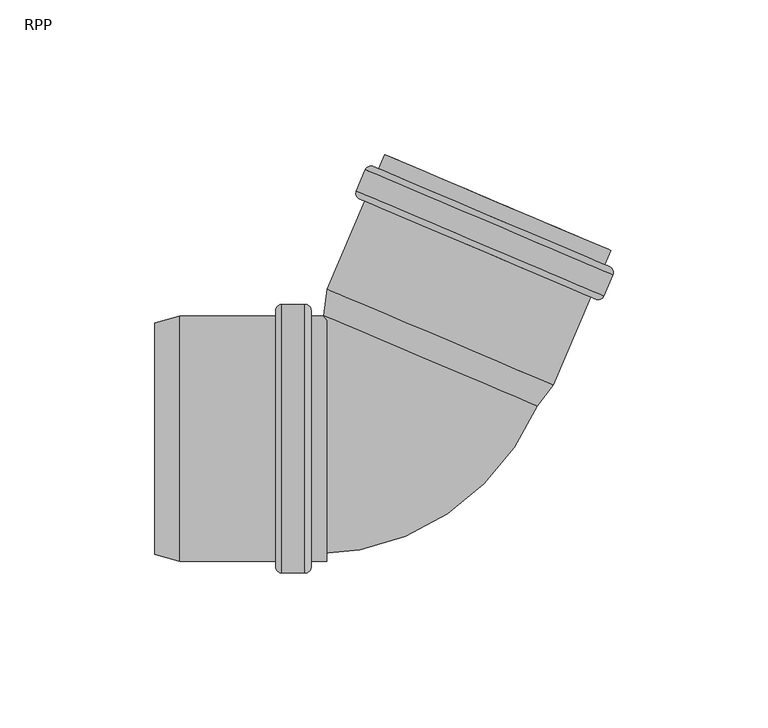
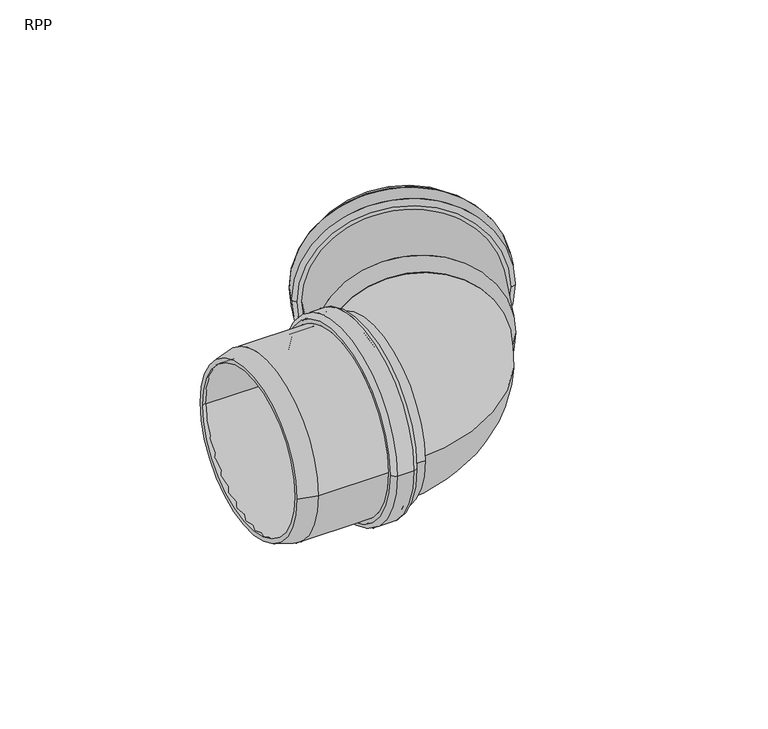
"""IFC4 building model written with IfcOpenShell, lengths in millimetres: pipe fitting geometry, RAUPIANO PLUS Bend : RPP."""

from ifc_helpers import new_model, si_unit, point, frame, origin, place, context, project, spatial, polyline, circle_curve, ellipse_curve, trimmed, source, transform, mapped, element, save
from ifc_brep_helpers import plane_surface, cylinder_surface, revolved_surface, advanced_brep


def rpp_015da664(model_context):
    return source(origin(), model_context, "Body", "AdvancedBrep", [
        advanced_brep(
        [(-37.3682508, -37.8, 0.0), (-37.3682508, 37.8, 0.0), (-70.0075993, 37.8, 0.0), (-70.0075993, -37.8, 0.0), (-36.8682508, -41.6, 0.0), (-36.8682508, 41.6, 0.0), (-37.3682508, 41.1, 0.0), (-37.3682508, -41.1, 0.0), (-30.2682508, -41.6, 0.0), (-30.2682508, 41.6, 0.0), (-29.7682508, -41.1, 0.0), (-29.7682508, 41.1, 0.0), (-22.8682508, -37.8, 0.0), (-22.8682508, 37.8, 0.0), (-29.7682508, 37.8, 0.0), (-29.7682508, -37.8, 0.0), (-27.8682508, -39.7, 0.0), (-27.8682508, 39.7, 0.0), (-22.8682508, 39.7, 0.0), (-22.8682508, -39.7, 0.0), (-29.8682508, -43.5, 0.0), (-29.8682508, 43.5, 0.0), (-27.8682508, 41.5, 0.0), (-27.8682508, -41.5, 0.0), (-37.2682508, -43.5, 0.0), (-37.2682508, 43.5, 0.0), (-39.2682508, -41.5, 0.0), (-39.2682508, 41.5, 0.0), (-70.257739, -39.7, 0.0), (-70.257739, 39.7, 0.0), (-39.2682508, 39.7, 0.0), (-39.2682508, -39.7, 0.0), (-78.4682508, -37.5, 0.0), (-78.4682508, 37.5, 0.0), (-78.4682508, 35.5329753, 0.0), (-78.4682508, -35.5329753, 0.0)],
        [
            (0, 1, circle_curve(frame((-37.3682508, 0.0, 0.0), z_axis=(1.0, 0.0, 0.0), x_axis=(0.0, 1.0, 0.0)), 37.8)),
            (1, 2),
            (2, 3, circle_curve(frame((-70.0075993, 0.0, 0.0), z_axis=(-1.0, 0.0, 0.0), x_axis=(0.0, 1.0, 0.0)), 37.8)),
            (3, 0),
            (4, 5, circle_curve(frame((-36.8682508, 0.0, 0.0), z_axis=(1.0, 0.0, 0.0), x_axis=(0.0, 1.0, 0.0)), 41.6)),
            (5, 6, circle_curve(frame((-36.8682508, 41.1, 0.0), z_axis=(0.0, 0.0, 1.0), x_axis=(0.0, -1.0, 0.0)), 0.5)),
            (6, 7, circle_curve(frame((-37.3682508, 0.0, 0.0), z_axis=(-1.0, 0.0, 0.0), x_axis=(0.0, 1.0, 0.0)), 41.1)),
            (7, 4, circle_curve(frame((-36.8682508, -41.1, 0.0), z_axis=(0.0, 0.0, 1.0), x_axis=(0.0, 1.0, 0.0)), 0.5)),
            (8, 9, circle_curve(frame((-30.2682508, 0.0, 0.0), z_axis=(1.0, 0.0, 0.0), x_axis=(0.0, 1.0, 0.0)), 41.6)),
            (9, 5),
            (4, 8),
            (10, 11, circle_curve(frame((-29.7682508, 0.0, 0.0), z_axis=(1.0, 0.0, 0.0), x_axis=(0.0, 1.0, 0.0)), 41.1)),
            (11, 9, circle_curve(frame((-30.2682508, 41.1, 0.0), z_axis=(0.0, 0.0, 1.0), x_axis=(0.0, -1.0, 0.0)), 0.5)),
            (8, 10, circle_curve(frame((-30.2682508, -41.1, 0.0), z_axis=(0.0, 0.0, 1.0), x_axis=(0.0, 1.0, 0.0)), 0.5)),
            (12, 13, circle_curve(frame((-22.8682508, 0.0, 0.0), z_axis=(1.0, 0.0, 0.0), x_axis=(0.0, 1.0, 0.0)), 37.8)),
            (13, 14),
            (14, 15, circle_curve(frame((-29.7682508, 0.0, 0.0), z_axis=(-1.0, 0.0, 0.0), x_axis=(0.0, 1.0, 0.0)), 37.8)),
            (15, 12),
            (16, 17, circle_curve(frame((-27.8682508, 0.0, 0.0), z_axis=(1.0, 0.0, 0.0), x_axis=(0.0, 1.0, 0.0)), 39.7)),
            (17, 18),
            (18, 19, circle_curve(frame((-22.8682508, 0.0, 0.0), z_axis=(-1.0, 0.0, 0.0), x_axis=(0.0, 1.0, 0.0)), 39.7)),
            (19, 16),
            (20, 21, circle_curve(frame((-29.8682508, 0.0, 0.0), z_axis=(1.0, 0.0, 0.0), x_axis=(0.0, 1.0, 0.0)), 43.5)),
            (21, 22, circle_curve(frame((-29.8682508, 41.5, 0.0), z_axis=(0.0, 0.0, -1.0), x_axis=(0.0, -1.0, 0.0)), 2.0)),
            (22, 23, circle_curve(frame((-27.8682508, 0.0, 0.0), z_axis=(-1.0, 0.0, 0.0), x_axis=(0.0, 1.0, 0.0)), 41.5)),
            (23, 20, circle_curve(frame((-29.8682508, -41.5, 0.0), z_axis=(0.0, 0.0, -1.0), x_axis=(0.0, 1.0, 0.0)), 2.0)),
            (24, 25, circle_curve(frame((-37.2682508, 0.0, 0.0), z_axis=(1.0, 0.0, 0.0), x_axis=(0.0, 1.0, 0.0)), 43.5)),
            (25, 21),
            (20, 24),
            (26, 27, circle_curve(frame((-39.2682508, 0.0, 0.0), z_axis=(1.0, 0.0, 0.0), x_axis=(0.0, 1.0, 0.0)), 41.5)),
            (27, 25, circle_curve(frame((-37.2682508, 41.5, 0.0), z_axis=(0.0, 0.0, -1.0), x_axis=(0.0, -1.0, 0.0)), 2.0)),
            (24, 26, circle_curve(frame((-37.2682508, -41.5, 0.0), z_axis=(0.0, 0.0, -1.0), x_axis=(0.0, 1.0, 0.0)), 2.0)),
            (28, 29, circle_curve(frame((-70.257739, 0.0, 0.0), z_axis=(1.0, 0.0, 0.0), x_axis=(0.0, 1.0, 0.0)), 39.7)),
            (29, 30),
            (30, 31, circle_curve(frame((-39.2682508, 0.0, 0.0), z_axis=(-1.0, 0.0, 0.0), x_axis=(0.0, 1.0, 0.0)), 39.7)),
            (31, 28),
            (32, 33, circle_curve(frame((-78.4682508, 0.0, 0.0), z_axis=(1.0, 0.0, 0.0), x_axis=(0.0, 1.0, 0.0)), 37.5)),
            (33, 29),
            (28, 32),
            (2, 34),
            (34, 35, circle_curve(frame((-78.4682508, 0.0, 0.0), z_axis=(-1.0, 0.0, 0.0), x_axis=(0.0, 1.0, 0.0)), 35.5329753)),
            (35, 3),
            (1, 0, circle_curve(frame((-37.3682508, 0.0, 0.0), z_axis=(1.0, 0.0, 0.0), x_axis=(0.0, -1.0, 0.0)), 37.8)),
            (3, 2, circle_curve(frame((-70.0075993, 0.0, 0.0), z_axis=(-1.0, 0.0, 0.0), x_axis=(0.0, -1.0, 0.0)), 37.8)),
            (6, 7, circle_curve(frame((-37.3682508, 0.0, 0.0), z_axis=(1.0, 0.0, 0.0), x_axis=(0.0, -1.0, 0.0)), 41.1)),
            (5, 4, circle_curve(frame((-36.8682508, 0.0, 0.0), z_axis=(1.0, 0.0, 0.0), x_axis=(0.0, -1.0, 0.0)), 41.6)),
            (9, 8, circle_curve(frame((-30.2682508, 0.0, 0.0), z_axis=(1.0, 0.0, 0.0), x_axis=(0.0, -1.0, 0.0)), 41.6)),
            (11, 10, circle_curve(frame((-29.7682508, 0.0, 0.0), z_axis=(1.0, 0.0, 0.0), x_axis=(0.0, -1.0, 0.0)), 41.1)),
            (14, 15, circle_curve(frame((-29.7682508, 0.0, 0.0), z_axis=(1.0, 0.0, 0.0), x_axis=(0.0, -1.0, 0.0)), 37.8)),
            (13, 12, circle_curve(frame((-22.8682508, 0.0, 0.0), z_axis=(1.0, 0.0, 0.0), x_axis=(0.0, -1.0, 0.0)), 37.8)),
            (18, 19, circle_curve(frame((-22.8682508, 0.0, 0.0), z_axis=(1.0, 0.0, 0.0), x_axis=(0.0, -1.0, 0.0)), 39.7)),
            (17, 16, circle_curve(frame((-27.8682508, 0.0, 0.0), z_axis=(1.0, 0.0, 0.0), x_axis=(0.0, -1.0, 0.0)), 39.7)),
            (22, 23, circle_curve(frame((-27.8682508, 0.0, 0.0), z_axis=(1.0, 0.0, 0.0), x_axis=(0.0, -1.0, 0.0)), 41.5)),
            (21, 20, circle_curve(frame((-29.8682508, 0.0, 0.0), z_axis=(1.0, 0.0, 0.0), x_axis=(0.0, -1.0, 0.0)), 43.5)),
            (25, 24, circle_curve(frame((-37.2682508, 0.0, 0.0), z_axis=(1.0, 0.0, 0.0), x_axis=(0.0, -1.0, 0.0)), 43.5)),
            (27, 26, circle_curve(frame((-39.2682508, 0.0, 0.0), z_axis=(1.0, 0.0, 0.0), x_axis=(0.0, -1.0, 0.0)), 41.5)),
            (30, 31, circle_curve(frame((-39.2682508, 0.0, 0.0), z_axis=(1.0, 0.0, 0.0), x_axis=(0.0, -1.0, 0.0)), 39.7)),
            (29, 28, circle_curve(frame((-70.257739, 0.0, 0.0), z_axis=(1.0, 0.0, 0.0), x_axis=(0.0, -1.0, 0.0)), 39.7)),
            (33, 32, circle_curve(frame((-78.4682508, 0.0, 0.0), z_axis=(1.0, 0.0, 0.0), x_axis=(0.0, -1.0, 0.0)), 37.5)),
            (34, 35, circle_curve(frame((-78.4682508, 0.0, 0.0), z_axis=(1.0, 0.0, 0.0), x_axis=(0.0, -1.0, 0.0)), 35.5329753)),
        ],
        [
            revolved_surface(polyline([(-70.0075993, 37.8, 0.0), (-37.3682508, 37.8, 0.0)]), (-78.4682508, 0.0, 0.0), (-1.0, 0.0, 0.0)),
            revolved_surface(trimmed(ellipse_curve(frame((-36.8682508, 41.1, 0.0), z_axis=(0.0, 0.0, -1.0), x_axis=(0.0, -1.0, 0.0)), 0.5, 0.5), [point((-37.3682508, 41.1, 0.0))], [point((-36.8682508, 41.6, 0.0))], True, "CARTESIAN"), (-78.4682508, 0.0, 0.0), (-1.0, 0.0, 0.0)),
            revolved_surface(polyline([(-36.8682508, 41.6, 0.0), (-30.268250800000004, 41.6, 0.0)]), (-78.4682508, 0.0, 0.0), (-1.0, 0.0, 0.0)),
            revolved_surface(trimmed(ellipse_curve(frame((-30.2682508, 41.1, 0.0), z_axis=(0.0, 0.0, -1.0), x_axis=(0.0, -1.0, 0.0)), 0.5, 0.5), [point((-30.2682508, 41.6, 0.0))], [point((-29.7682508, 41.1, 0.0))], True, "CARTESIAN"), (-78.4682508, 0.0, 0.0), (-1.0, 0.0, 0.0)),
            revolved_surface(polyline([(-29.768250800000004, 37.8, 0.0), (-22.8682508, 37.8, 0.0)]), (-78.4682508, 0.0, 0.0), (-1.0, 0.0, 0.0)),
            cylinder_surface(frame((-78.4682508, 0.0, 0.0), z_axis=(-1.0, 0.0, 0.0), x_axis=(0.0, 1.0, 0.0)), 39.7),
            revolved_surface(trimmed(ellipse_curve(frame((-29.8682508, 41.5, 0.0), z_axis=(0.0, 0.0, 1.0), x_axis=(0.0, -1.0, 0.0)), 2.0, 2.0), [point((-27.8682508, 41.5, 0.0))], [point((-29.8682508, 43.5, 0.0))], True, "CARTESIAN"), (-78.4682508, 0.0, 0.0), (-1.0, 0.0, 0.0)),
            cylinder_surface(frame((-78.4682508, 0.0, 0.0), z_axis=(-1.0, 0.0, 0.0), x_axis=(0.0, 1.0, 0.0)), 43.5),
            revolved_surface(trimmed(ellipse_curve(frame((-37.2682508, 41.5, 0.0), z_axis=(0.0, 0.0, 1.0), x_axis=(0.0, -1.0, 0.0)), 2.0, 2.0), [point((-37.2682508, 43.5, 0.0))], [point((-39.2682508, 41.5, 0.0))], True, "CARTESIAN"), (-78.4682508, 0.0, 0.0), (-1.0, 0.0, 0.0)),
            revolved_surface(polyline([(-70.257739, 39.7, 0.0), (-78.4682508, 37.5, 0.0)]), (-78.4682508, 0.0, 0.0), (-1.0, 0.0, 0.0)),
            revolved_surface(polyline([(-78.4682508, 35.5329753, 0.0), (-70.0075993, 37.8, 0.0)]), (-78.4682508, 0.0, 0.0), (-1.0, 0.0, 0.0)),
            revolved_surface(polyline([(-70.0075993, -37.8, 0.0), (-37.3682508, -37.8, 0.0)]), (-78.4682508, 0.0, 0.0), (-1.0, 0.0, 0.0)),
            plane_surface(frame((-37.3682508, 0.0, 0.0), z_axis=(1.0, 0.0, 0.0), x_axis=(0.0, -1.0, 0.0))),
            revolved_surface(trimmed(ellipse_curve(frame((-36.8682508, -41.1, 0.0), z_axis=(0.0, 0.0, 1.0), x_axis=(0.0, 1.0, 0.0)), 0.5, 0.5), [point((-37.3682508, -41.1, 0.0))], [point((-36.8682508, -41.6, 0.0))], True, "CARTESIAN"), (-78.4682508, 0.0, 0.0), (-1.0, 0.0, 0.0)),
            revolved_surface(polyline([(-36.8682508, -41.6, 0.0), (-30.268250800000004, -41.6, 0.0)]), (-78.4682508, 0.0, 0.0), (-1.0, 0.0, 0.0)),
            revolved_surface(trimmed(ellipse_curve(frame((-30.2682508, -41.1, 0.0), z_axis=(0.0, 0.0, 1.0), x_axis=(0.0, 1.0, 0.0)), 0.5, 0.5), [point((-30.2682508, -41.6, 0.0))], [point((-29.7682508, -41.1, 0.0))], True, "CARTESIAN"), (-78.4682508, 0.0, 0.0), (-1.0, 0.0, 0.0)),
            plane_surface(frame((-29.7682508, 0.0, 0.0), z_axis=(-1.0, 0.0, 0.0), x_axis=(0.0, -1.0, 0.0))),
            revolved_surface(polyline([(-29.768250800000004, -37.8, 0.0), (-22.8682508, -37.8, 0.0)]), (-78.4682508, 0.0, 0.0), (-1.0, 0.0, 0.0)),
            plane_surface(frame((-22.8682508, 0.0, 0.0), z_axis=(1.0, 0.0, 0.0), x_axis=(0.0, -1.0, 0.0))),
            cylinder_surface(frame((-78.4682508, 0.0, 0.0), z_axis=(-1.0, 0.0, 0.0), x_axis=(0.0, -1.0, 0.0)), 39.7),
            plane_surface(frame((-27.8682508, 0.0, 0.0), z_axis=(1.0, 0.0, 0.0), x_axis=(0.0, -1.0, 0.0))),
            revolved_surface(trimmed(ellipse_curve(frame((-29.8682508, -41.5, 0.0), z_axis=(0.0, 0.0, -1.0), x_axis=(0.0, 1.0, 0.0)), 2.0, 2.0), [point((-27.8682508, -41.5, 0.0))], [point((-29.8682508, -43.5, 0.0))], True, "CARTESIAN"), (-78.4682508, 0.0, 0.0), (-1.0, 0.0, 0.0)),
            cylinder_surface(frame((-78.4682508, 0.0, 0.0), z_axis=(-1.0, 0.0, 0.0), x_axis=(0.0, -1.0, 0.0)), 43.5),
            revolved_surface(trimmed(ellipse_curve(frame((-37.2682508, -41.5, 0.0), z_axis=(0.0, 0.0, -1.0), x_axis=(0.0, 1.0, 0.0)), 2.0, 2.0), [point((-37.2682508, -43.5, 0.0))], [point((-39.2682508, -41.5, 0.0))], True, "CARTESIAN"), (-78.4682508, 0.0, 0.0), (-1.0, 0.0, 0.0)),
            plane_surface(frame((-39.2682508, 0.0, 0.0), z_axis=(-1.0, 0.0, 0.0), x_axis=(0.0, -1.0, 0.0))),
            revolved_surface(polyline([(-70.257739, -39.7, 0.0), (-78.4682508, -37.5, 0.0)]), (-78.4682508, 0.0, 0.0), (-1.0, 0.0, 0.0)),
            plane_surface(frame((-78.4682508, 0.0, 0.0), z_axis=(-1.0, 0.0, 0.0), x_axis=(0.0, -1.0, 0.0))),
            revolved_surface(polyline([(-78.4682508, -35.5329753, 0.0), (-70.0075993, -37.8, 0.0)]), (-78.4682508, 0.0, 0.0), (-1.0, 0.0, 0.0)),
        ],
        [
            (0, [[1, 2, 3, 4]]),
            (1, [[5, 6, 7, 8]]),
            (2, [[9, 10, -5, 11]]),
            (3, [[12, 13, -9, 14]]),
            (4, [[15, 16, 17, 18]]),
            (5, [[19, 20, 21, 22]]),
            (6, [[23, 24, 25, 26]]),
            (7, [[27, 28, -23, 29]]),
            (8, [[30, 31, -27, 32]]),
            (5, [[33, 34, 35, 36]]),
            (9, [[37, 38, -33, 39]]),
            (10, [[-3, 40, 41, 42]]),
            (11, [[43, -4, 44, -2]]),
            (12, [[45, -7], [-43, -1]]),
            (13, [[46, -8, -45, -6]]),
            (14, [[47, -11, -46, -10]]),
            (15, [[48, -14, -47, -13]]),
            (16, [[-48, -12], [49, -17]]),
            (17, [[50, -18, -49, -16]]),
            (18, [[51, -21], [-50, -15]]),
            (19, [[52, -22, -51, -20]]),
            (20, [[53, -25], [-52, -19]]),
            (21, [[54, -26, -53, -24]]),
            (22, [[55, -29, -54, -28]]),
            (23, [[56, -32, -55, -31]]),
            (24, [[-56, -30], [57, -35]]),
            (19, [[58, -36, -57, -34]]),
            (25, [[59, -39, -58, -38]]),
            (26, [[-59, -37], [60, -41]]),
            (27, [[-44, -42, -60, -40]]),
        ],
    ),
        advanced_brep(
        [(43.4409768, 11.4008186, 0.0), (-21.9755756, 39.1684977, 0.0), (-20.7565429, 47.8423656, 0.0), (48.833624, 18.3030923, 0.0), (50.4848458, 17.3304483, 0.0), (-22.6032395, 48.3544999, 0.0), (-23.7862314, 39.9370755, 0.0), (45.2516326, 10.6322408, 0.0), (62.5934035, 45.8564226, 0.0), (-10.4946818, 76.8804742, 0.0), (69.7641946, 53.02439, 0.0), (-10.3197277, 87.0179981, 0.0), (-13.211138, 80.2062622, 0.0), (66.8727842, 46.212654, 0.0), (69.0013941, 60.9527022, 0.0), (-4.0866913, 91.9767538, 0.0), (-6.040347, 87.3742296, 0.0), (67.0477384, 56.350178, 0.0), (64.55639, 55.3436079, 0.0), (-5.0337769, 84.8828812, 0.0), (-2.3377321, 91.2343647, 0.0), (67.2524348, 61.6950914, 0.0), (65.2801175, 47.3232451, 0.0), (-11.3058863, 79.832075, 0.0), (-8.7270609, 85.907407, 0.0), (67.8589429, 53.3985772, 0.0), (-8.0033335, 77.8870443, 0.0), (61.5868335, 48.347771, 0.0), (-12.1515906, 77.5837903, 0.0), (64.2503123, 45.1531066, 0.0), (68.7046471, 55.6468619, 0.0), (-7.6972557, 88.0775456, 0.0), (-8.0714429, 86.1722939, 0.0), (67.5940561, 54.0541951, 0.0), (64.6244995, 47.0583583, 0.0), (-11.0409995, 79.176457, 0.0)],
        [
            (0, 1, circle_curve(frame((10.7327006, 25.2846582, 0.0), z_axis=(-0.39073112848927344, -0.9205048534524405, 0.0), x_axis=(-0.9205048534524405, 0.39073112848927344, 0.0)), 35.5329753)),
            (1, 2),
            (2, 3, circle_curve(frame((14.0385405, 33.072729, 0.0), z_axis=(0.39073112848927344, 0.9205048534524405, 0.0), x_axis=(-0.9205048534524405, 0.39073112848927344, 0.0)), 37.8)),
            (3, 0),
            (4, 5, circle_curve(frame((13.9408032, 32.8424741, 0.0), z_axis=(-0.39073112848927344, -0.9205048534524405, 0.0), x_axis=(-0.9205048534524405, 0.39073112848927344, 0.0)), 39.7)),
            (5, 6),
            (6, 7, circle_curve(frame((10.7327006, 25.2846582, 0.0), z_axis=(0.39073112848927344, 0.9205048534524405, 0.0), x_axis=(-0.9205048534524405, 0.39073112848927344, 0.0)), 37.5)),
            (7, 4),
            (8, 9, circle_curve(frame((26.0493609, 61.3684484, 0.0), z_axis=(-0.39073112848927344, -0.9205048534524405, 0.0), x_axis=(-0.9205048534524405, 0.39073112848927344, 0.0)), 39.7)),
            (9, 5),
            (4, 8),
            (10, 11, circle_curve(frame((29.7222335, 70.021194, 0.0), z_axis=(-0.39073112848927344, -0.9205048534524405, 0.0), x_axis=(-0.9205048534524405, 0.39073112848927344, 0.0)), 43.5)),
            (11, 12),
            (12, 13, circle_curve(frame((26.8308231, 63.2094581, 0.0), z_axis=(0.39073112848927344, 0.9205048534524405, 0.0), x_axis=(-0.9205048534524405, 0.39073112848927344, 0.0)), 43.5)),
            (13, 10),
            (14, 15, circle_curve(frame((32.4573514, 76.464728, 0.0), z_axis=(-0.39073112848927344, -0.9205048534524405, 0.0), x_axis=(-0.9205048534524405, 0.39073112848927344, 0.0)), 39.7)),
            (15, 16),
            (16, 17, circle_curve(frame((30.5036957, 71.8622038, 0.0), z_axis=(0.39073112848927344, 0.9205048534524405, 0.0), x_axis=(-0.9205048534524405, 0.39073112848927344, 0.0)), 39.7)),
            (17, 14),
            (18, 19, circle_curve(frame((29.7613066, 70.1132445, 0.0), z_axis=(-0.39073112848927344, -0.9205048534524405, 0.0), x_axis=(-0.9205048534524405, 0.39073112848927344, 0.0)), 37.8)),
            (19, 20),
            (20, 21, circle_curve(frame((32.4573514, 76.464728, 0.0), z_axis=(0.39073112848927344, 0.9205048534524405, 0.0), x_axis=(-0.9205048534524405, 0.39073112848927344, 0.0)), 37.8)),
            (21, 18),
            (22, 23, circle_curve(frame((26.9871156, 63.5776601, 0.0), z_axis=(-0.39073112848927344, -0.9205048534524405, 0.0), x_axis=(-0.9205048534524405, 0.39073112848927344, 0.0)), 41.6)),
            (23, 24),
            (24, 25, circle_curve(frame((29.565941, 69.6529921, 0.0), z_axis=(0.39073112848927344, 0.9205048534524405, 0.0), x_axis=(-0.9205048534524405, 0.39073112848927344, 0.0)), 41.6)),
            (25, 22),
            (2, 26),
            (26, 27, circle_curve(frame((26.79175, 63.1174076, 0.0), z_axis=(0.39073112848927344, 0.9205048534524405, 0.0), x_axis=(-0.9205048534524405, 0.39073112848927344, 0.0)), 37.8)),
            (27, 3),
            (1, 0, circle_curve(frame((10.7327006, 25.2846582, 0.0), z_axis=(-0.39073112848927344, -0.9205048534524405, 0.0), x_axis=(0.9205048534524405, -0.39073112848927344, 0.0)), 35.5329753)),
            (3, 2, circle_curve(frame((14.0385405, 33.072729, 0.0), z_axis=(0.39073112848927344, 0.9205048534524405, 0.0), x_axis=(0.9205048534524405, -0.39073112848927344, 0.0)), 37.8)),
            (6, 7, circle_curve(frame((10.7327006, 25.2846582, 0.0), z_axis=(-0.39073112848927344, -0.9205048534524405, 0.0), x_axis=(0.9205048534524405, -0.39073112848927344, 0.0)), 37.5)),
            (5, 4, circle_curve(frame((13.9408032, 32.8424741, 0.0), z_axis=(-0.39073112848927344, -0.9205048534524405, 0.0), x_axis=(0.9205048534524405, -0.39073112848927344, 0.0)), 39.7)),
            (9, 8, circle_curve(frame((26.0493609, 61.3684484, 0.0), z_axis=(-0.39073112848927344, -0.9205048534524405, 0.0), x_axis=(0.9205048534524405, -0.39073112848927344, 0.0)), 39.7)),
            (28, 29, circle_curve(frame((26.0493609, 61.3684484, 0.0), z_axis=(-0.39073112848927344, -0.9205048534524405, 0.0), x_axis=(0.9205048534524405, -0.39073112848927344, 0.0)), 41.5)),
            (29, 28, circle_curve(frame((26.0493609, 61.3684484, 0.0), z_axis=(-0.39073112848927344, -0.9205048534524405, 0.0), x_axis=(-0.9205048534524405, 0.39073112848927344, 0.0)), 41.5)),
            (11, 10, circle_curve(frame((29.7222335, 70.021194, 0.0), z_axis=(-0.39073112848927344, -0.9205048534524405, 0.0), x_axis=(0.9205048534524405, -0.39073112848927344, 0.0)), 43.5)),
            (13, 12, circle_curve(frame((26.8308231, 63.2094581, 0.0), z_axis=(0.39073112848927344, 0.9205048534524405, 0.0), x_axis=(0.9205048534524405, -0.39073112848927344, 0.0)), 43.5)),
            (30, 31, circle_curve(frame((30.5036957, 71.8622038, 0.0), z_axis=(0.39073112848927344, 0.9205048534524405, 0.0), x_axis=(0.9205048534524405, -0.39073112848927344, 0.0)), 41.5)),
            (31, 30, circle_curve(frame((30.5036957, 71.8622038, 0.0), z_axis=(0.39073112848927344, 0.9205048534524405, 0.0), x_axis=(-0.9205048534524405, 0.39073112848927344, 0.0)), 41.5)),
            (16, 17, circle_curve(frame((30.5036957, 71.8622038, 0.0), z_axis=(-0.39073112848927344, -0.9205048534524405, 0.0), x_axis=(0.9205048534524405, -0.39073112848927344, 0.0)), 39.7)),
            (15, 14, circle_curve(frame((32.4573514, 76.464728, 0.0), z_axis=(-0.39073112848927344, -0.9205048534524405, 0.0), x_axis=(0.9205048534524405, -0.39073112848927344, 0.0)), 39.7)),
            (20, 21, circle_curve(frame((32.4573514, 76.464728, 0.0), z_axis=(-0.39073112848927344, -0.9205048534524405, 0.0), x_axis=(0.9205048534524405, -0.39073112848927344, 0.0)), 37.8)),
            (19, 18, circle_curve(frame((29.7613066, 70.1132445, 0.0), z_axis=(-0.39073112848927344, -0.9205048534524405, 0.0), x_axis=(0.9205048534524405, -0.39073112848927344, 0.0)), 37.8)),
            (32, 33, circle_curve(frame((29.7613066, 70.1132445, 0.0), z_axis=(-0.39073112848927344, -0.9205048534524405, 0.0), x_axis=(0.9205048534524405, -0.39073112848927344, 0.0)), 41.1)),
            (33, 32, circle_curve(frame((29.7613066, 70.1132445, 0.0), z_axis=(-0.39073112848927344, -0.9205048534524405, 0.0), x_axis=(-0.9205048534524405, 0.39073112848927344, 0.0)), 41.1)),
            (23, 22, circle_curve(frame((26.9871156, 63.5776601, 0.0), z_axis=(-0.39073112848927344, -0.9205048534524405, 0.0), x_axis=(0.9205048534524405, -0.39073112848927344, 0.0)), 41.6)),
            (25, 24, circle_curve(frame((29.565941, 69.6529921, 0.0), z_axis=(0.39073112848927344, 0.9205048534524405, 0.0), x_axis=(0.9205048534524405, -0.39073112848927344, 0.0)), 41.6)),
            (34, 35, circle_curve(frame((26.79175, 63.1174076, 0.0), z_axis=(0.39073112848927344, 0.9205048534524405, 0.0), x_axis=(0.9205048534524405, -0.39073112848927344, 0.0)), 41.1)),
            (35, 34, circle_curve(frame((26.79175, 63.1174076, 0.0), z_axis=(0.39073112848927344, 0.9205048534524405, 0.0), x_axis=(-0.9205048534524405, 0.39073112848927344, 0.0)), 41.1)),
            (26, 27, circle_curve(frame((26.79175, 63.1174076, 0.0), z_axis=(-0.39073112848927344, -0.9205048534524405, 0.0), x_axis=(0.9205048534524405, -0.39073112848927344, 0.0)), 37.8)),
            (12, 28, circle_curve(frame((-11.3701283, 79.4248, 0.0), z_axis=(0.0, 0.0, 1.0), x_axis=(0.9205048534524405, -0.39073112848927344, 0.0)), 2.0)),
            (29, 13, circle_curve(frame((65.0317745, 46.9941163, 0.0), z_axis=(0.0, 0.0, 1.0), x_axis=(-0.9205048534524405, 0.39073112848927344, 0.0)), 2.0)),
            (31, 11, circle_curve(frame((-8.4787179, 86.2365359, 0.0), z_axis=(0.0, 0.0, 1.0), x_axis=(0.9205048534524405, -0.39073112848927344, 0.0)), 2.0)),
            (10, 30, circle_curve(frame((67.9231849, 53.8058522, 0.0), z_axis=(0.0, 0.0, 1.0), x_axis=(-0.9205048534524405, 0.39073112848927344, 0.0)), 2.0)),
            (24, 32, circle_curve(frame((-8.2668085, 85.7120415, 0.0), z_axis=(0.0, 0.0, -1.0), x_axis=(0.9205048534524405, -0.39073112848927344, 0.0)), 0.5)),
            (33, 25, circle_curve(frame((67.3986905, 53.5939427, 0.0), z_axis=(0.0, 0.0, -1.0), x_axis=(-0.9205048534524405, 0.39073112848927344, 0.0)), 0.5)),
            (35, 23, circle_curve(frame((-10.8456339, 79.6367095, 0.0), z_axis=(0.0, 0.0, -1.0), x_axis=(0.9205048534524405, -0.39073112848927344, 0.0)), 0.5)),
            (22, 34, circle_curve(frame((64.8198651, 47.5186107, 0.0), z_axis=(0.0, 0.0, -1.0), x_axis=(-0.9205048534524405, 0.39073112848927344, 0.0)), 0.5)),
        ],
        [
            revolved_surface(polyline([(-20.7565429, 47.8423656, 0.0), (-21.9755756, 39.1684977, 0.0)]), (10.7327006, 25.2846582, 0.0), (0.39073112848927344, 0.9205048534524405, 0.0)),
            revolved_surface(polyline([(-23.7862314, 39.9370755, 0.0), (-22.6032395, 48.3544999, 0.0)]), (10.7327006, 25.2846582, 0.0), (0.39073112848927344, 0.9205048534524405, 0.0)),
            cylinder_surface(frame((10.7327006, 25.2846582, 0.0), z_axis=(0.39073112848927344, 0.9205048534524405, 0.0), x_axis=(-0.9205048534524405, 0.39073112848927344, 0.0)), 39.7),
            cylinder_surface(frame((10.7327006, 25.2846582, 0.0), z_axis=(0.39073112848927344, 0.9205048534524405, 0.0), x_axis=(-0.9205048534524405, 0.39073112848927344, 0.0)), 43.5),
            revolved_surface(polyline([(-2.3377321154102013, 91.23436471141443, 0.0), (-5.033776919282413, 84.88288118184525, 0.0)]), (10.7327006, 25.2846582, 0.0), (0.39073112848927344, 0.9205048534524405, 0.0)),
            revolved_surface(polyline([(-8.727060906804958, 85.90740709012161, 0.0), (-11.30588637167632, 79.83207501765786, 0.0)]), (10.7327006, 25.2846582, 0.0), (0.39073112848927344, 0.9205048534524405, 0.0)),
            revolved_surface(polyline([(-8.003333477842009, 77.88704433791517, 0.0), (-20.7565429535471, 47.8423656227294, 0.0)]), (10.7327006, 25.2846582, 0.0), (0.39073112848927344, 0.9205048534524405, 0.0)),
            revolved_surface(polyline([(48.833624, 18.3030923, 0.0), (43.4409768, 11.4008186, 0.0)]), (10.7327006, 25.2846582, 0.0), (0.39073112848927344, 0.9205048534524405, 0.0)),
            plane_surface(frame((10.7327006, 25.2846582, 0.0), z_axis=(-0.39073112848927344, -0.9205048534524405, 0.0), x_axis=(0.9205048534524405, -0.39073112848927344, 0.0))),
            revolved_surface(polyline([(45.2516326, 10.6322408, 0.0), (50.4848458, 17.3304483, 0.0)]), (10.7327006, 25.2846582, 0.0), (0.39073112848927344, 0.9205048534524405, 0.0)),
            cylinder_surface(frame((10.7327006, 25.2846582, 0.0), z_axis=(0.39073112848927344, 0.9205048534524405, 0.0), x_axis=(0.9205048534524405, -0.39073112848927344, 0.0)), 39.7),
            plane_surface(frame((26.0493609, 61.3684484, 0.0), z_axis=(-0.39073112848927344, -0.9205048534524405, 0.0), x_axis=(0.9205048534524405, -0.39073112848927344, 0.0))),
            cylinder_surface(frame((10.7327006, 25.2846582, 0.0), z_axis=(0.39073112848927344, 0.9205048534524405, 0.0), x_axis=(0.9205048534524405, -0.39073112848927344, 0.0)), 43.5),
            plane_surface(frame((30.5036957, 71.8622038, 0.0), z_axis=(0.39073112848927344, 0.9205048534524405, 0.0), x_axis=(0.9205048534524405, -0.39073112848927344, 0.0))),
            plane_surface(frame((32.4573514, 76.464728, 0.0), z_axis=(0.39073112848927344, 0.9205048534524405, 0.0), x_axis=(0.9205048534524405, -0.39073112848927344, 0.0))),
            revolved_surface(polyline([(67.25243480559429, 61.69509139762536, 0.0), (64.55639000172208, 55.34360786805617, 0.0)]), (10.7327006, 25.2846582, 0.0), (0.39073112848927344, 0.9205048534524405, 0.0)),
            plane_surface(frame((29.7613066, 70.1132445, 0.0), z_axis=(-0.39073112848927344, -0.9205048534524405, 0.0), x_axis=(0.9205048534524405, -0.39073112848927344, 0.0))),
            revolved_surface(polyline([(67.85894290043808, 53.39857719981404, 0.0), (65.28011743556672, 47.323245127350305, 0.0)]), (10.7327006, 25.2846582, 0.0), (0.39073112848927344, 0.9205048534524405, 0.0)),
            plane_surface(frame((26.79175, 63.1174076, 0.0), z_axis=(0.39073112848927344, 0.9205048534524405, 0.0), x_axis=(0.9205048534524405, -0.39073112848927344, 0.0))),
            revolved_surface(polyline([(61.58683344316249, 48.3477710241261, 0.0), (48.83362396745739, 18.30309230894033, 0.0)]), (10.7327006, 25.2846582, 0.0), (0.39073112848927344, 0.9205048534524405, 0.0)),
            revolved_surface(trimmed(ellipse_curve(frame((-11.3701283, 79.4248, 0.0), z_axis=(0.0, 0.0, -1.0), x_axis=(0.9205048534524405, -0.39073112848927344, 0.0)), 2.0, 2.0), [point((-12.1515906, 77.5837903, 0.0))], [point((-13.211138, 80.2062622, 0.0))], True, "CARTESIAN"), (10.7327006, 25.2846582, 0.0), (0.39073112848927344, 0.9205048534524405, 0.0)),
            revolved_surface(trimmed(ellipse_curve(frame((-8.4787179, 86.2365359, 0.0), z_axis=(0.0, 0.0, -1.0), x_axis=(0.9205048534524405, -0.39073112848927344, 0.0)), 2.0, 2.0), [point((-10.3197277, 87.0179981, 0.0))], [point((-7.6972557, 88.0775456, 0.0))], True, "CARTESIAN"), (10.7327006, 25.2846582, 0.0), (0.39073112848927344, 0.9205048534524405, 0.0)),
            revolved_surface(trimmed(ellipse_curve(frame((-8.2668085, 85.7120415, 0.0), z_axis=(0.0, 0.0, 1.0), x_axis=(0.9205048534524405, -0.39073112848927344, 0.0)), 0.5, 0.5), [point((-8.0714429, 86.1722939, 0.0))], [point((-8.7270609, 85.907407, 0.0))], True, "CARTESIAN"), (10.7327006, 25.2846582, 0.0), (0.39073112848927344, 0.9205048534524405, 0.0)),
            revolved_surface(trimmed(ellipse_curve(frame((-10.8456339, 79.6367095, 0.0), z_axis=(0.0, 0.0, 1.0), x_axis=(0.9205048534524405, -0.39073112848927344, 0.0)), 0.5, 0.5), [point((-11.3058863, 79.832075, 0.0))], [point((-11.0409995, 79.176457, 0.0))], True, "CARTESIAN"), (10.7327006, 25.2846582, 0.0), (0.39073112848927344, 0.9205048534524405, 0.0)),
            revolved_surface(trimmed(ellipse_curve(frame((65.0317745, 46.9941163, 0.0), z_axis=(0.0, 0.0, 1.0), x_axis=(-0.9205048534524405, 0.3907311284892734, 0.0)), 2.0, 2.0), [point((64.2503123, 45.1531066, 0.0))], [point((66.8727842, 46.212654, 0.0))], True, "CARTESIAN"), (10.7327006, 25.2846582, 0.0), (0.39073112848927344, 0.9205048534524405, 0.0)),
            revolved_surface(trimmed(ellipse_curve(frame((67.9231849, 53.8058522, 0.0), z_axis=(0.0, 0.0, 1.0), x_axis=(-0.9205048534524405, 0.3907311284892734, 0.0)), 2.0, 2.0), [point((69.7641946, 53.02439, 0.0))], [point((68.7046471, 55.6468619, 0.0))], True, "CARTESIAN"), (10.7327006, 25.2846582, 0.0), (0.39073112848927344, 0.9205048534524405, 0.0)),
            revolved_surface(trimmed(ellipse_curve(frame((67.3986905, 53.5939427, 0.0), z_axis=(0.0, 0.0, -1.0), x_axis=(-0.9205048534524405, 0.3907311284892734, 0.0)), 0.5, 0.5), [point((67.5940561, 54.0541951, 0.0))], [point((67.8589429, 53.3985772, 0.0))], True, "CARTESIAN"), (10.7327006, 25.2846582, 0.0), (0.39073112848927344, 0.9205048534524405, 0.0)),
            revolved_surface(trimmed(ellipse_curve(frame((64.8198651, 47.5186107, 0.0), z_axis=(0.0, 0.0, -1.0), x_axis=(-0.9205048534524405, 0.3907311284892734, 0.0)), 0.5, 0.5), [point((65.2801175, 47.3232451, 0.0))], [point((64.6244995, 47.0583583, 0.0))], True, "CARTESIAN"), (10.7327006, 25.2846582, 0.0), (0.39073112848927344, 0.9205048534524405, 0.0)),
        ],
        [
            (0, [[1, 2, 3, 4]]),
            (1, [[5, 6, 7, 8]]),
            (2, [[9, 10, -5, 11]]),
            (3, [[12, 13, 14, 15]]),
            (2, [[16, 17, 18, 19]]),
            (4, [[20, 21, 22, 23]]),
            (5, [[24, 25, 26, 27]]),
            (6, [[-3, 28, 29, 30]]),
            (7, [[31, -4, 32, -2]]),
            (8, [[33, -7], [-31, -1]]),
            (9, [[34, -8, -33, -6]]),
            (10, [[35, -11, -34, -10]]),
            (11, [[36, 37], [-35, -9]]),
            (12, [[38, -15, 39, -13]]),
            (13, [[40, 41], [42, -18]]),
            (10, [[43, -19, -42, -17]]),
            (14, [[-43, -16], [44, -22]]),
            (15, [[45, -23, -44, -21]]),
            (16, [[46, 47], [-45, -20]]),
            (17, [[48, -27, 49, -25]]),
            (18, [[50, 51], [52, -29]]),
            (19, [[-32, -30, -52, -28]]),
            (20, [[-14, 53, -37, 54]]),
            (21, [[-41, 55, -12, 56]]),
            (22, [[-26, 57, -47, 58]]),
            (23, [[-51, 59, -24, 60]]),
            (24, [[-39, -54, -36, -53]]),
            (25, [[-40, -56, -38, -55]]),
            (26, [[-49, -58, -46, -57]]),
            (27, [[-50, -60, -48, -59]]),
        ],
    ),
        advanced_brep(
        [(-27.4682508, 35.6, 0.0), (-27.4682508, -35.6, 0.0), (-78.4682508, -35.6, 0.0), (-78.4682508, 35.6, 0.0), (-74.3629949, 37.5, 0.0), (-74.3629949, -37.5, 0.0), (-27.4682508, -37.5, 0.0), (-27.4682508, 37.5, 0.0), (-78.4682508, 36.4, 0.0), (-78.4682508, -36.4, 0.0)],
        [
            (0, 1, circle_curve(frame((-27.4682508, 0.0, 0.0), z_axis=(1.0, 0.0, 0.0), x_axis=(0.0, -1.0, 0.0)), 35.6)),
            (1, 2),
            (2, 3, circle_curve(frame((-78.4682508, 0.0, 0.0), z_axis=(-1.0, 0.0, 0.0), x_axis=(0.0, -1.0, 0.0)), 35.6)),
            (3, 0),
            (4, 5, circle_curve(frame((-74.3629949, 0.0, 0.0), z_axis=(1.0, 0.0, 0.0), x_axis=(0.0, -1.0, 0.0)), 37.5)),
            (5, 6),
            (6, 7, circle_curve(frame((-27.4682508, 0.0, 0.0), z_axis=(-1.0, 0.0, 0.0), x_axis=(0.0, -1.0, 0.0)), 37.5)),
            (7, 4),
            (8, 9, circle_curve(frame((-78.4682508, 0.0, 0.0), z_axis=(1.0, 0.0, 0.0), x_axis=(0.0, -1.0, 0.0)), 36.4)),
            (9, 5),
            (4, 8),
            (1, 0, circle_curve(frame((-27.4682508, 0.0, 0.0), z_axis=(1.0, 0.0, 0.0), x_axis=(0.0, 1.0, 0.0)), 35.6)),
            (3, 2, circle_curve(frame((-78.4682508, 0.0, 0.0), z_axis=(-1.0, 0.0, 0.0), x_axis=(0.0, 1.0, 0.0)), 35.6)),
            (6, 7, circle_curve(frame((-27.4682508, 0.0, 0.0), z_axis=(1.0, 0.0, 0.0), x_axis=(0.0, 1.0, 0.0)), 37.5)),
            (5, 4, circle_curve(frame((-74.3629949, 0.0, 0.0), z_axis=(1.0, 0.0, 0.0), x_axis=(0.0, 1.0, 0.0)), 37.5)),
            (9, 8, circle_curve(frame((-78.4682508, 0.0, 0.0), z_axis=(1.0, 0.0, 0.0), x_axis=(0.0, 1.0, 0.0)), 36.4)),
        ],
        [
            revolved_surface(polyline([(-78.4682508, -35.6, 0.0), (-27.4682508, -35.6, 0.0)]), (-27.4682508, 0.0, 0.0), (-1.0, 0.0, 0.0)),
            cylinder_surface(frame((-27.4682508, 0.0, 0.0), z_axis=(-1.0, 0.0, 0.0), x_axis=(0.0, -1.0, 0.0)), 37.5),
            revolved_surface(polyline([(-74.3629949, -37.5, 0.0), (-78.4682508, -36.4, 0.0)]), (-27.4682508, 0.0, 0.0), (-1.0, 0.0, 0.0)),
            revolved_surface(polyline([(-78.4682508, 35.6, 0.0), (-27.4682508, 35.6, 0.0)]), (-27.4682508, 0.0, 0.0), (-1.0, 0.0, 0.0)),
            plane_surface(frame((-27.4682508, 0.0, 0.0), z_axis=(1.0, 0.0, 0.0), x_axis=(0.0, 1.0, 0.0))),
            cylinder_surface(frame((-27.4682508, 0.0, 0.0), z_axis=(-1.0, 0.0, 0.0), x_axis=(0.0, 1.0, 0.0)), 37.5),
            revolved_surface(polyline([(-74.3629949, 37.5, 0.0), (-78.4682508, 36.4, 0.0)]), (-27.4682508, 0.0, 0.0), (-1.0, 0.0, 0.0)),
            plane_surface(frame((-78.4682508, 0.0, 0.0), z_axis=(-1.0, 0.0, 0.0), x_axis=(0.0, 1.0, 0.0))),
        ],
        [
            (0, [[1, 2, 3, 4]]),
            (1, [[5, 6, 7, 8]]),
            (2, [[9, 10, -5, 11]]),
            (3, [[12, -4, 13, -2]]),
            (4, [[14, -7], [-12, -1]]),
            (5, [[15, -8, -14, -6]]),
            (6, [[16, -11, -15, -10]]),
            (7, [[-16, -9], [-13, -3]]),
        ],
    ),
        advanced_brep(
        [(-27.4682508, -37.5, 0.0), (-27.4682508, 37.5, 0.0), (-27.4682508, -35.6, 0.0), (-27.4682508, 35.6, 0.0), (45.2516326, 10.6322408, 0.0), (-23.7862314, 39.9370755, 0.0), (43.5026734, 11.37463, 0.0), (-22.0372722, 39.1946863, 0.0)],
        [
            (0, 1, circle_curve(frame((-27.4682508, 0.0, 0.0), z_axis=(-1.0, 0.0, 0.0), x_axis=(0.0, 1.0, 0.0)), 37.5)),
            (1, 0, circle_curve(frame((-27.4682508, 0.0, 0.0), z_axis=(-1.0, 0.0, 0.0), x_axis=(0.0, 1.0, 0.0)), 37.5)),
            (2, 3, circle_curve(frame((-27.4682508, 0.0, 0.0), z_axis=(1.0, 0.0, 0.0), x_axis=(0.0, 1.0, 0.0)), 35.6)),
            (3, 2, circle_curve(frame((-27.4682508, 0.0, 0.0), z_axis=(1.0, 0.0, 0.0), x_axis=(0.0, 1.0, 0.0)), 35.6)),
            (4, 5, circle_curve(frame((10.7327006, 25.2846582, 0.0), z_axis=(0.3907311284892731, 0.9205048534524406, 0.0), x_axis=(-0.9205048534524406, 0.3907311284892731, 0.0)), 37.5)),
            (5, 4, circle_curve(frame((10.7327006, 25.2846582, 0.0), z_axis=(0.3907311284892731, 0.9205048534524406, 0.0), x_axis=(-0.9205048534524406, 0.3907311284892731, 0.0)), 37.5)),
            (6, 7, circle_curve(frame((10.7327006, 25.2846582, 0.0), z_axis=(-0.3907311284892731, -0.9205048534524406, 0.0), x_axis=(-0.9205048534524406, 0.3907311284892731, 0.0)), 35.6)),
            (7, 6, circle_curve(frame((10.7327006, 25.2846582, 0.0), z_axis=(-0.3907311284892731, -0.9205048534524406, 0.0), x_axis=(-0.9205048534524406, 0.3907311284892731, 0.0)), 35.6)),
            (7, 3, circle_curve(frame((-27.4682508, 41.5, 0.0), z_axis=(0.0, 0.0, -1.0), x_axis=(0.0, -1.0, 0.0)), 5.9)),
            (2, 6, circle_curve(frame((-27.4682508, 41.5, 0.0), z_axis=(0.0, 0.0, 1.0), x_axis=(0.0, -1.0, 0.0)), 77.1)),
            (5, 1, circle_curve(frame((-27.4682508, 41.5, 0.0), z_axis=(0.0, 0.0, -1.0), x_axis=(0.0, -1.0, 0.0)), 4.0)),
            (0, 4, circle_curve(frame((-27.4682508, 41.5, 0.0), z_axis=(0.0, 0.0, 1.0), x_axis=(0.0, -1.0, 0.0)), 79.0)),
        ],
        [
            plane_surface(frame((-27.4682508, 0.0, 0.0), z_axis=(-1.0, 0.0, 0.0), x_axis=(0.0, 0.0, 1.0))),
            plane_surface(frame((10.7327006, 25.2846582, 0.0), z_axis=(0.3907311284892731, 0.9205048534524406, 0.0), x_axis=(0.0, 0.0, 1.0))),
            revolved_surface(trimmed(ellipse_curve(frame((-27.4682508, 0.0, 0.0), z_axis=(1.0, 0.0, 0.0), x_axis=(0.0, 1.0, 0.0)), 35.6, 35.6), [point((-27.4682508, -35.6, 0.0))], [point((-27.4682508, 35.6, 0.0))], True, "CARTESIAN"), (-27.4682508, 41.5, 0.0), (0.0, 0.0, 1.0)),
            revolved_surface(trimmed(ellipse_curve(frame((-27.4682508, 0.0, 0.0), z_axis=(1.0, 0.0, 0.0), x_axis=(0.0, 1.0, 0.0)), 35.6, 35.6), [point((-27.4682508, 35.6, 0.0))], [point((-27.4682508, -35.6, 0.0))], True, "CARTESIAN"), (-27.4682508, 41.5, 0.0), (0.0, 0.0, 1.0)),
            revolved_surface(trimmed(ellipse_curve(frame((-27.4682508, 0.0, 0.0), z_axis=(-1.0, 0.0, 0.0), x_axis=(0.0, 1.0, 0.0)), 37.5, 37.5), [point((-27.4682508, -37.5, 0.0))], [point((-27.4682508, 37.5, 0.0))], True, "CARTESIAN"), (-27.4682508, 41.5, 0.0), (0.0, 0.0, 1.0)),
            revolved_surface(trimmed(ellipse_curve(frame((-27.4682508, 0.0, 0.0), z_axis=(-1.0, 0.0, 0.0), x_axis=(0.0, 1.0, 0.0)), 37.5, 37.5), [point((-27.4682508, 37.5, 0.0))], [point((-27.4682508, -37.5, 0.0))], True, "CARTESIAN"), (-27.4682508, 41.5, 0.0), (0.0, 0.0, 1.0)),
        ],
        [
            (0, [[1, 2], [3, 4]]),
            (1, [[5, 6], [7, 8]]),
            (2, [[9, -3, 10, -8]]),
            (3, [[-10, -4, -9, -7]]),
            (4, [[11, -1, 12, -6]]),
            (5, [[-12, -2, -11, -5]]),
        ],
    ),
    ])


if __name__ == "__main__":
    model = new_model("IFC4")
    model_context = context("Model", 3, world=origin())
    ifc_project = project(units=[si_unit("LENGTHUNIT", "METRE", prefix="MILLI")], contexts=[model_context])
    site = spatial("IfcSite", under=ifc_project)
    building = spatial("IfcBuilding", under=site)
    placement = place(None, origin())
    rpp_shape = rpp_015da664(model_context)
    element("IfcPipeFitting", 1, ObjectType="RAUPIANO PLUS Bend : RPP", at=placement, inside=building, context=model_context, shape_type="MappedRepresentation", body=[
        mapped(rpp_shape, transform((0.0, 0.0, 0.0), x_axis=(1.0, 0.0, 0.0), y_axis=(0.0, 1.0, 0.0), z_axis=(0.0, 0.0, 1.0))),
    ])
    save(model, "model.ifc")
